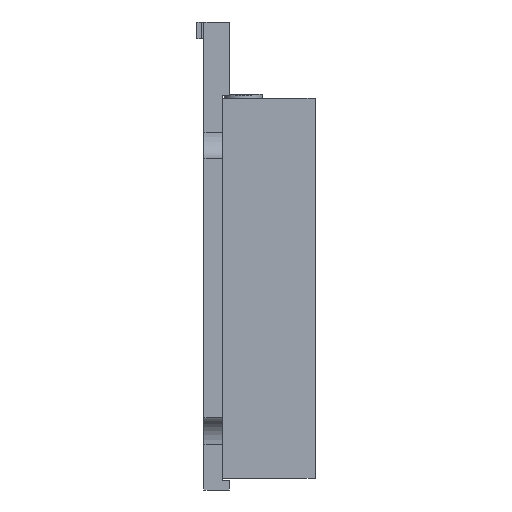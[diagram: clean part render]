
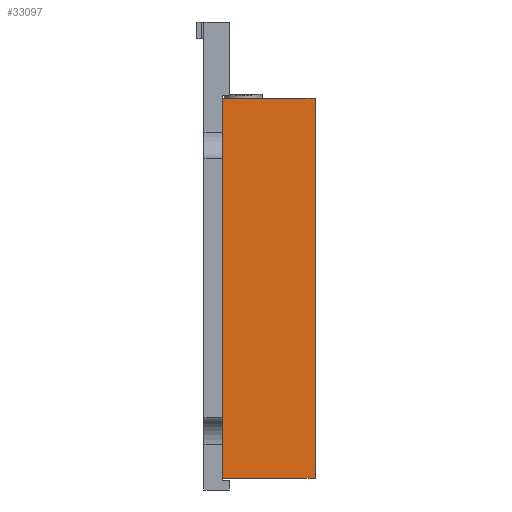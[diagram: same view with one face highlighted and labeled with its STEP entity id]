
A CAD part, left-side view. The second image highlights one B-rep face of the part: STEP entity #33097.
In plain terms, the highlighted planar face has unit normal (-1, 0, 0).
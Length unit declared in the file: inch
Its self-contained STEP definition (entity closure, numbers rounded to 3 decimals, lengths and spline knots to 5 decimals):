
#1850 = ORIENTED_EDGE ( 'NONE', *, *, #30344, .F. ) ;
#2112 = LINE ( 'NONE', #13733, #23990 ) ;
#2138 = VERTEX_POINT ( 'NONE', #28378 ) ;
#2817 = LINE ( 'NONE', #14650, #13952 ) ;
#4791 = AXIS2_PLACEMENT_3D ( 'NONE', #6224, #21176, #15547 ) ;
#5828 = ORIENTED_EDGE ( 'NONE', *, *, #24276, .T. ) ;
#6224 = CARTESIAN_POINT ( 'NONE',  ( 0.08845, 0.33, -1.00578 ) ) ;
#6383 = EDGE_LOOP ( 'NONE', ( #5828, #30592, #1850, #18554 ) ) ;
#6453 = CARTESIAN_POINT ( 'NONE',  ( 0.08845, 0.33, -1.00578 ) ) ;
#9960 = DIRECTION ( 'NONE',  ( 0., -1., 0. ) ) ;
#10272 = VERTEX_POINT ( 'NONE', #26047 ) ;
#12236 = FACE_OUTER_BOUND ( 'NONE', #6383, .T. ) ;
#13733 = CARTESIAN_POINT ( 'NONE',  ( 0.08845, 0., -1.00578 ) ) ;
#13952 = VECTOR ( 'NONE', #37871, 39.37008 ) ;
#14650 = CARTESIAN_POINT ( 'NONE',  ( 0.08845, 0.33, -1.00578 ) ) ;
#15547 = DIRECTION ( 'NONE',  ( 0., -1., 0. ) ) ;
#16288 = DIRECTION ( 'NONE',  ( 0., 0., 1. ) ) ;
#18554 = ORIENTED_EDGE ( 'NONE', *, *, #37043, .T. ) ;
#19412 = DIRECTION ( 'NONE',  ( 0., -1., 0. ) ) ;
#21110 = VERTEX_POINT ( 'NONE', #34165 ) ;
#21176 = DIRECTION ( 'NONE',  ( 1., 0., 0. ) ) ;
#22112 = VECTOR ( 'NONE', #9960, 39.37008 ) ;
#23990 = VECTOR ( 'NONE', #16288, 39.37008 ) ;
#24276 = EDGE_CURVE ( 'NONE', #2138, #27774, #2112, .T. ) ;
#26047 = CARTESIAN_POINT ( 'NONE',  ( 0.08845, 0.33, -2.35578 ) ) ;
#27774 = VERTEX_POINT ( 'NONE', #37920 ) ;
#28378 = CARTESIAN_POINT ( 'NONE',  ( 0.08845, 0., -2.35578 ) ) ;
#28880 = LINE ( 'NONE', #31210, #29694 ) ;
#29694 = VECTOR ( 'NONE', #19412, 39.37008 ) ;
#30344 = EDGE_CURVE ( 'NONE', #10272, #21110, #2817, .T. ) ;
#30458 = PLANE ( 'NONE',  #4791 ) ;
#30592 = ORIENTED_EDGE ( 'NONE', *, *, #32889, .F. ) ;
#31210 = CARTESIAN_POINT ( 'NONE',  ( 0.08845, 0.33, -2.35578 ) ) ;
#32889 = EDGE_CURVE ( 'NONE', #21110, #27774, #35920, .T. ) ;
#33097 = ADVANCED_FACE ( 'NONE', ( #12236 ), #30458, .F. ) ;
#34165 = CARTESIAN_POINT ( 'NONE',  ( 0.08845, 0.33, -1.00578 ) ) ;
#35920 = LINE ( 'NONE', #6453, #22112 ) ;
#37043 = EDGE_CURVE ( 'NONE', #10272, #2138, #28880, .T. ) ;
#37871 = DIRECTION ( 'NONE',  ( 0., 0., 1. ) ) ;
#37920 = CARTESIAN_POINT ( 'NONE',  ( 0.08845, 0., -1.00578 ) ) ;
